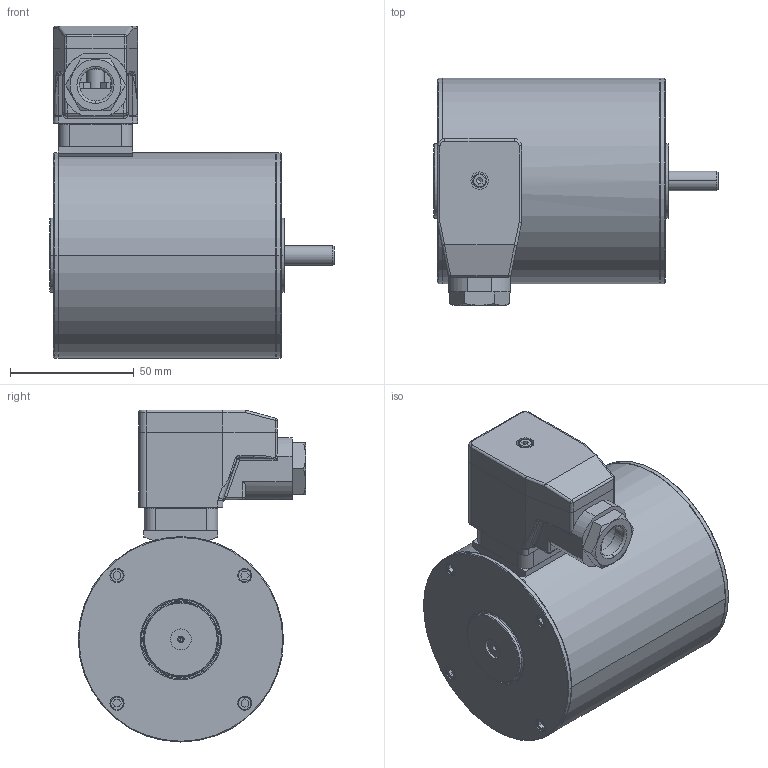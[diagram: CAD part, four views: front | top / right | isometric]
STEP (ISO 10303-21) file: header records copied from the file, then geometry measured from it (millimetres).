
FILE_DESCRIPTION (( 'STEP AP214' ), '1' );
FILE_NAME ('D842.STEP', '2012-04-16T12:34:04', ( ' ' ), ( '' ), 'SwSTEP 2.0', 'SolidWorks 2010', '' );
FILE_SCHEMA (( 'AUTOMOTIVE_DESIGN' ));
Length unit declared in the file: millimetre
Products named in the file (9): Hirschmann_GDM 3-21_K2-K22-Dichtung f.Dose; 935282005_ﾘ83; Hirschmann_GSAZ-300; 918081021; D842; Hirschmann_Einsatz-GDME3020; 951120054; Hirschmann_GDME3020
Assembly tree (8 placements, depth 3):
  D842
    918081021
      Hirschmann_GDM 3-21_K2-K22-Dichtung f.Dose
      Hirschmann_GSAZ-300
      935282005_ﾘ83
      Hirschmann_GDME3020
      Hirschmann_Einsatz-GDME3020
    951120054
    D842
Bounding box: 115 x 91.99 x 134.23 mm (x, y, z)
Volume: 555548.7 mm3; surface area: 69905.7 mm2
Topology: 12 solids, 12 shells, 811 faces, 2059 edges, 1316 vertices
Faces by surface type: plane 426, cylinder 271, cone 68, torus 22, bspline 16, sphere 8
Entity records: 27600 total; most frequent: CARTESIAN_POINT 5692, DIRECTION 4197, ORIENTED_EDGE 4082, EDGE_CURVE 2041, AXIS2_PLACEMENT_3D 1445, VERTEX_POINT 1316, LINE 1307, VECTOR 1307
